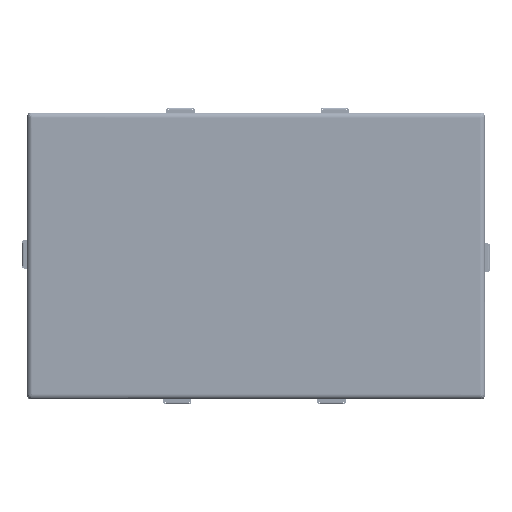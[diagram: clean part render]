
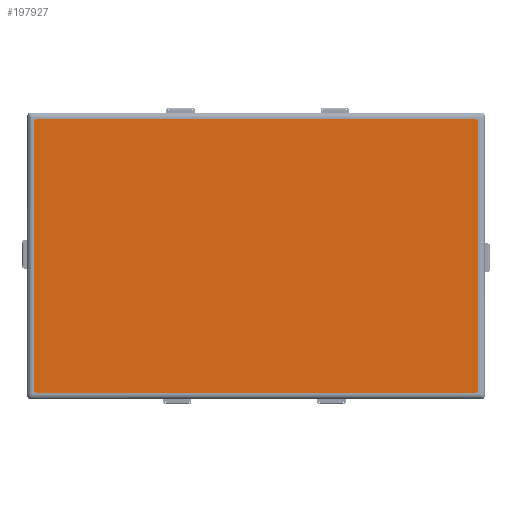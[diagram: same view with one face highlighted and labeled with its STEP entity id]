
A CAD part, top view. The second image highlights one B-rep face of the part: STEP entity #197927.
In plain terms, the highlighted planar face has unit normal (0, 0, 1).
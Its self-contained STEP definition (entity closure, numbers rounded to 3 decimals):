
#9981=CIRCLE('',#212951,2.);
#9982=CIRCLE('',#212952,2.);
#9983=CIRCLE('',#212953,2.);
#9984=CIRCLE('',#212954,2.);
#19857=FACE_OUTER_BOUND('',#30616,.T.);
#30616=EDGE_LOOP('',(#180848,#180849,#180850,#180851,#180852,#180853,#180854,
#180855));
#53167=LINE('',#340831,#75718);
#53171=LINE('',#340838,#75722);
#53174=LINE('',#340844,#75725);
#53176=LINE('',#340849,#75727);
#75718=VECTOR('',#265406,1000.);
#75722=VECTOR('',#265412,1000.);
#75725=VECTOR('',#265417,1000.);
#75727=VECTOR('',#265421,1000.);
#94365=VERTEX_POINT('',#340829);
#94366=VERTEX_POINT('',#340830);
#94367=VERTEX_POINT('',#340835);
#94368=VERTEX_POINT('',#340837);
#94369=VERTEX_POINT('',#340841);
#94370=VERTEX_POINT('',#340843);
#94371=VERTEX_POINT('',#340847);
#94372=VERTEX_POINT('',#340848);
#123196=EDGE_CURVE('',#94365,#94366,#53167,.T.);
#123200=EDGE_CURVE('',#94368,#94367,#53171,.T.);
#123203=EDGE_CURVE('',#94370,#94369,#53174,.T.);
#123205=EDGE_CURVE('',#94371,#94372,#53176,.T.);
#123208=EDGE_CURVE('',#94369,#94371,#9981,.T.);
#123209=EDGE_CURVE('',#94372,#94365,#9982,.T.);
#123210=EDGE_CURVE('',#94366,#94368,#9983,.T.);
#123211=EDGE_CURVE('',#94367,#94370,#9984,.T.);
#180848=ORIENTED_EDGE('',*,*,#123203,.T.);
#180849=ORIENTED_EDGE('',*,*,#123208,.T.);
#180850=ORIENTED_EDGE('',*,*,#123205,.T.);
#180851=ORIENTED_EDGE('',*,*,#123209,.T.);
#180852=ORIENTED_EDGE('',*,*,#123196,.T.);
#180853=ORIENTED_EDGE('',*,*,#123210,.T.);
#180854=ORIENTED_EDGE('',*,*,#123200,.T.);
#180855=ORIENTED_EDGE('',*,*,#123211,.T.);
#188067=PLANE('',#212950);
#197927=ADVANCED_FACE('',(#19857),#188067,.T.);
#212950=AXIS2_PLACEMENT_3D('',#340852,#265424,#265425);
#212951=AXIS2_PLACEMENT_3D('',#340853,#265426,#265427);
#212952=AXIS2_PLACEMENT_3D('',#340854,#265428,#265429);
#212953=AXIS2_PLACEMENT_3D('',#340855,#265430,#265431);
#212954=AXIS2_PLACEMENT_3D('',#340856,#265432,#265433);
#265406=DIRECTION('',(0.,1.,0.));
#265412=DIRECTION('',(-1.,0.,0.));
#265417=DIRECTION('',(0.,-1.,0.));
#265421=DIRECTION('',(1.,0.,0.));
#265424=DIRECTION('center_axis',(0.,0.,
1.));
#265425=DIRECTION('ref_axis',(-1.,0.,0.));
#265426=DIRECTION('center_axis',(0.,0.,
1.));
#265427=DIRECTION('ref_axis',(-1.,0.,0.));
#265428=DIRECTION('center_axis',(0.,0.,
1.));
#265429=DIRECTION('ref_axis',(-1.,0.,0.));
#265430=DIRECTION('center_axis',(0.,0.,
1.));
#265431=DIRECTION('ref_axis',(-1.,0.,0.));
#265432=DIRECTION('center_axis',(0.,0.,
1.));
#265433=DIRECTION('ref_axis',(-1.,0.,0.));
#340829=CARTESIAN_POINT('',(282.159,-130.883,-127.541));
#340830=CARTESIAN_POINT('',(282.159,106.117,-127.541));
#340831=CARTESIAN_POINT('',(282.159,-132.883,-127.541));
#340835=CARTESIAN_POINT('',(-107.841,108.117,-127.541));
#340837=CARTESIAN_POINT('',(280.159,108.117,-127.541));
#340838=CARTESIAN_POINT('',(282.159,108.117,-127.541));
#340841=CARTESIAN_POINT('',(-109.841,-130.883,-127.541));
#340843=CARTESIAN_POINT('',(-109.841,106.117,-127.541));
#340844=CARTESIAN_POINT('',(-109.841,-132.883,-127.541));
#340847=CARTESIAN_POINT('',(-107.841,-132.883,-127.541));
#340848=CARTESIAN_POINT('',(280.159,-132.883,-127.541));
#340849=CARTESIAN_POINT('',(282.159,-132.883,-127.541));
#340852=CARTESIAN_POINT('Origin',(86.159,-12.383,-127.541));
#340853=CARTESIAN_POINT('Origin',(-107.841,-130.883,-127.541));
#340854=CARTESIAN_POINT('Origin',(280.159,-130.883,-127.541));
#340855=CARTESIAN_POINT('Origin',(280.159,106.117,-127.541));
#340856=CARTESIAN_POINT('Origin',(-107.841,106.117,-127.541));
